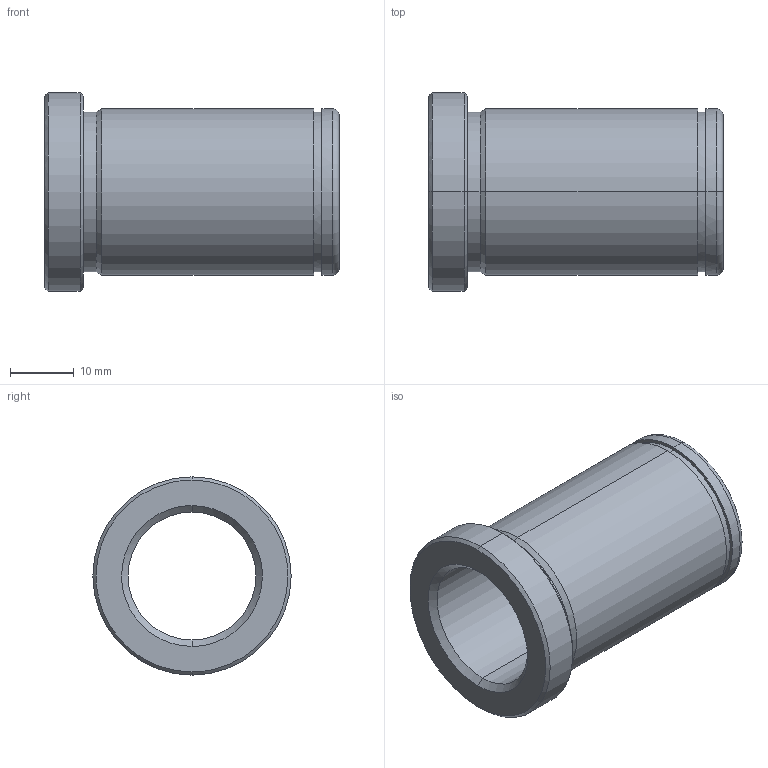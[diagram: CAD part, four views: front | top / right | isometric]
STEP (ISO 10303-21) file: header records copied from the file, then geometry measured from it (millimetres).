
FILE_DESCRIPTION(('CATIA V5 STEP Exchange'),'2;1');
FILE_NAME('C:\Users\Utente\Desktop\IO LAVORO\3D X SITO CF\X SITO\PLASTICA\553\553-20X46.stp','2021-05-23T18:08:55+00:00',('none'),('none'),'CATIA Version 5 Release 20 GA (IN-10)','CATIA V5 STEP AP203','none');
FILE_SCHEMA(('CONFIG_CONTROL_DESIGN'));
Length unit declared in the file: millimetre
Products named in the file (1): 553-20X46
Bounding box: 46 x 31 x 31 mm (x, y, z)
Volume: 11059.6 mm3; surface area: 7574.1 mm2
Topology: 1 solids, 1 shells, 29 faces, 92 edges, 68 vertices
Faces by surface type: cylinder 12, cone 8, plane 5, torus 4
Entity records: 1222 total; most frequent: CARTESIAN_POINT 368, ORIENTED_EDGE 184, DIRECTION 136, EDGE_CURVE 92, AXIS2_PLACEMENT_3D 88, VERTEX_POINT 68, CIRCLE 58, EDGE_LOOP 34
